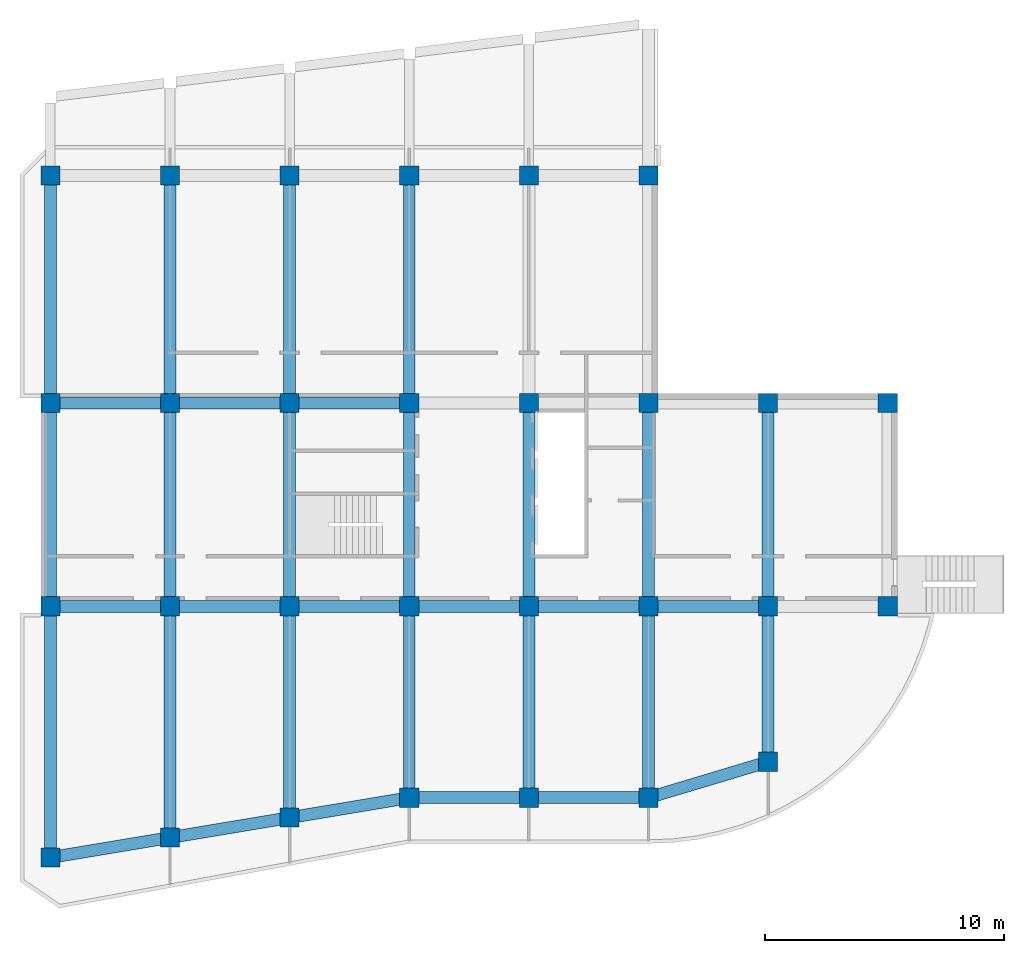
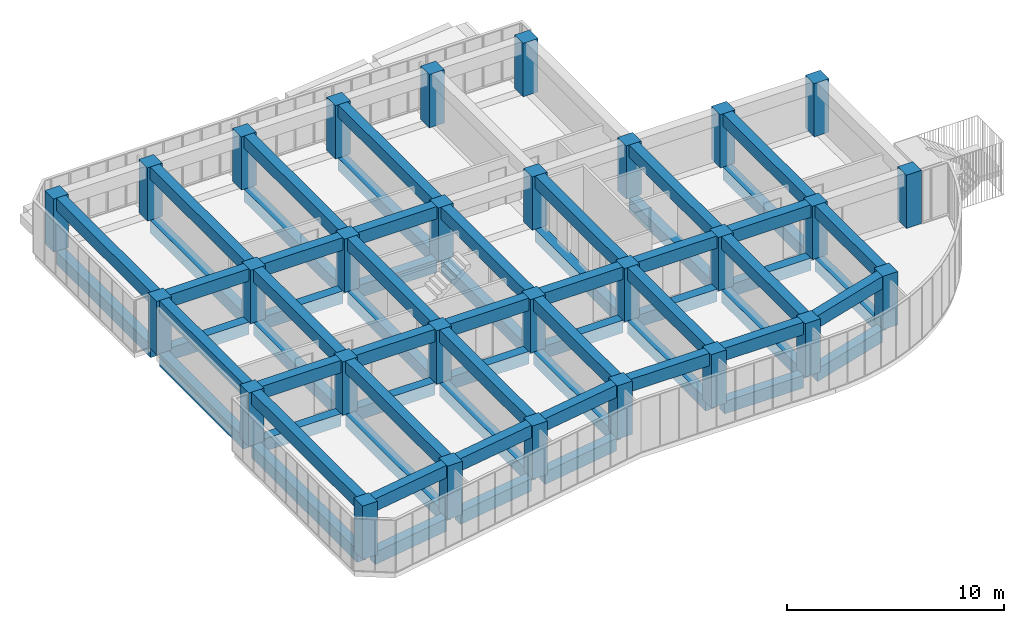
# One storey, part 3 of 6: 65 beams, 29 columns.
"""IFC2X3 building model written with IfcOpenShell, lengths in millimetres."""

from ifc_helpers import new_model, entity, si_unit, converted_unit, derived_unit, money_unit, direction, frame, origin_with_axes, place, context, subcontext, project, spatial, faceted_brep, material, type_object, element, save


model = new_model("IFC2X3")

# Units and contexts
model_context = context("Model", 3, precision=0.01, world=origin_with_axes(), true_north=direction((0.0, 1.0)))
body_context = subcontext(model_context, "Body", "Model", "MODEL_VIEW")
ifc_project = project(units=[si_unit("LENGTHUNIT", "METRE", prefix="MILLI"), si_unit("AREAUNIT", "SQUARE_METRE"), si_unit("VOLUMEUNIT", "CUBIC_METRE"), converted_unit("PLANEANGLEUNIT", "DEGREE", entity("IfcPlaneAngleMeasure", 0.0174532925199), si_unit("PLANEANGLEUNIT", "RADIAN"), dimensions=[0, 0, 0, 0, 0, 0, 0]), si_unit("SOLIDANGLEUNIT", "STERADIAN"), money_unit("JPY"), converted_unit("TIMEUNIT", "Year", entity("IfcTimeMeasure", 31556926.0), si_unit("TIMEUNIT", "SECOND"), dimensions=[0, 0, 1, 0, 0, 0, 0]), si_unit("MASSUNIT", "GRAM", prefix="KILO"), si_unit("THERMODYNAMICTEMPERATUREUNIT", "DEGREE_CELSIUS"), si_unit("LUMINOUSINTENSITYUNIT", "LUMEN"), si_unit("ENERGYUNIT", "JOULE", prefix="MEGA"), derived_unit("THERMALCONDUCTANCEUNIT", [(si_unit("POWERUNIT", "WATT"), 1), (si_unit("LENGTHUNIT", "METRE"), -1), (si_unit("THERMODYNAMICTEMPERATUREUNIT", "KELVIN"), -1)]), derived_unit("SPECIFICHEATCAPACITYUNIT", [(si_unit("ENERGYUNIT", "JOULE"), 1), (si_unit("MASSUNIT", "GRAM", prefix="KILO"), -1), (si_unit("THERMODYNAMICTEMPERATUREUNIT", "KELVIN"), -1)]), derived_unit("MASSDENSITYUNIT", [(si_unit("MASSUNIT", "GRAM", prefix="KILO"), 1), (si_unit("VOLUMEUNIT", "CUBIC_METRE"), -1)])], contexts=[model_context])

# Site, building, storey
site_placement = place(None, origin_with_axes())
site = spatial("IfcSite", under=ifc_project, at=site_placement, Name="サイト", CompositionType="ELEMENT")
building_placement = place(site_placement, origin_with_axes())
building = spatial("IfcBuilding", under=site, at=building_placement, Name="建築", CompositionType="ELEMENT")
storey_placement = place(building_placement, frame((0.0, 0.0, 6000.0), z_axis=(0.0, 0.0, 1.0), x_axis=(1.0, 0.0, 0.0)))
storey = spatial("IfcBuildingStorey", under=building, at=storey_placement, Name="3FL", CompositionType="ELEMENT", Elevation=6000.0)

# Columns
ifc_material = material(Name="コンクリート")
column_type = type_object("IfcColumnType", Name="コンクリート 800 x 800", PredefinedType="NOTDEFINED")
for number, where, z_axis, x_axis, name in (
    (1, (0.0, 0.0, 0.0), (0.0, 0.0, 1.0), (1.0, 0.0, 0.0), "C1"),
    (2, (5000.0, 0.0, 0.0), (0.0, 0.0, 1.0), (1.0, 0.0, 0.0), "C1"),
    (3, (10000.0, 0.0, 0.0), (0.0, 0.0, 1.0), (1.0, 0.0, 0.0), "C1"),
    (4, (15000.0, 0.0, 0.0), (0.0, 0.0, 1.0), (1.0, 0.0, 0.0), "C1"),
    (5, (20000.0, 0.0, 0.0), (0.0, 0.0, 1.0), (1.0, 0.0, 0.0), "C1"),
    (6, (25000.0, 0.0, 0.0), (0.0, 0.0, 1.0), (1.0, 0.0, 0.0), "C1"),
    (7, (30000.0, 0.0, 0.0), (0.0, 0.0, 1.0), (1.0, 0.0, 0.0), "C1"),
    (8, (35000.0, 0.0, 0.0), (0.0, 0.0, 1.0), (1.0, 0.0, 0.0), "C1"),
    (9, (35000.0, 8500.0, 0.0), (0.0, 0.0, 1.0), (1.0, 0.0, 0.0), "C1"),
    (10, (30000.0, 8500.0, 0.0), (0.0, 0.0, 1.0), (1.0, 0.0, 0.0), "C1"),
    (11, (25000.0, 8500.0, 0.0), (0.0, 0.0, 1.0), (1.0, 0.0, 0.0), "C1"),
    (12, (20000.0, 8500.0, 0.0), (0.0, 0.0, 1.0), (1.0, 0.0, 0.0), "C1"),
    (13, (15000.0, 8500.0, 0.0), (0.0, 0.0, 1.0), (1.0, 0.0, 0.0), "C1"),
    (14, (10000.0, 8500.0, 0.0), (0.0, 0.0, 1.0), (1.0, 0.0, 0.0), "C1"),
    (15, (5000.0, 8500.0, 0.0), (0.0, 0.0, 1.0), (1.0, 0.0, 0.0), "C1"),
    (16, (0.0, 8500.0, 0.0), (0.0, 0.0, 1.0), (1.0, 0.0, 0.0), "C1"),
    (17, (0.0, -10500.0, 0.0), (0.0, 0.0, 1.0), (1.0, 0.0, 0.0), "C1"),
    (18, (5000.0, -9666.66666667, 0.0), (0.0, 0.0, 1.0), (1.0, 0.0, 0.0), "C1"),
    (19, (10000.0, -8833.33333333, 0.0), (0.0, 0.0, 1.0), (1.0, 0.0, 0.0), "C1"),
    (20, (15000.0, -8000.0, 0.0), (0.0, 0.0, 1.0), (1.0, 0.0, 0.0), "C1"),
    (21, (20000.0, -8000.0, 0.0), (0.0, 0.0, 1.0), (1.0, 0.0, 0.0), "C1"),
    (22, (25000.0, -8000.0, 0.0), (0.0, 0.0, 1.0), (1.0, 0.0, 0.0), "C1"),
    (23, (25000.0, 18000.0, 0.0), (0.0, 0.0, 1.0), (1.0, 0.0, 0.0), "C1"),
    (24, (20000.0, 18000.0, 0.0), (0.0, 0.0, 1.0), (1.0, 0.0, 0.0), "C1"),
    (25, (15000.0, 18000.0, 0.0), (0.0, 0.0, 1.0), (1.0, 0.0, 0.0), "C1"),
    (26, (10000.0, 18000.0, 0.0), (0.0, 0.0, 1.0), (1.0, 0.0, 0.0), "C1"),
    (27, (5000.0, 18000.0, 0.0), (0.0, 0.0, 1.0), (1.0, 0.0, 0.0), "C1"),
    (28, (0.0, 18000.0, 0.0), (0.0, 0.0, 1.0), (1.0, 0.0, 0.0), "C1"),
    (29, (30000.0, -6500.0, 0.0), (0.0, 0.0, 1.0), (1.0, 0.0, 0.0), "C1"),
):
    element("IfcColumn", number, at=place(storey_placement, frame(where, z_axis=z_axis, x_axis=x_axis)), inside=storey, type_object=column_type, material=ifc_material, Name=name, context=body_context, shape_type="Brep", body=[
        faceted_brep([(-400.0, -400.0, 3000.0), (-400.0, -400.0, 0.0), (400.0, -400.0, 0.0), (400.0, -400.0, 3000.0), (-400.0, 400.0, 3000.0), (-400.0, 400.0, 0.0), (400.0, 400.0, 0.0), (400.0, 400.0, 3000.0)], [[[0, 1, 2, 3]], [[4, 5, 1, 0]], [[2, 1, 5, 6]], [[3, 2, 6, 7]], [[4, 0, 3, 7]], [[7, 6, 5, 4]]]),
    ])

# Beams
beam_type = type_object("IfcBeamType", Name="コンクリート 500 x 700", PredefinedType="NOTDEFINED")
beam_1_placement = place(storey_placement, frame((25000.0, 0.0, 3000.0), z_axis=(0.0, 0.0, 1.0), x_axis=(-1.0, 0.0, 0.0)))
element("IfcBeam", 30, at=beam_1_placement, inside=storey, type_object=beam_type, material=ifc_material, Name="G1", context=body_context, shape_type="Brep", body=[
    faceted_brep([(-250.0, 7600.0, -700.0), (-250.0, 400.0, -700.0), (-250.0, 400.0, 0.0), (-250.0, 7600.0, 0.0), (250.0, 7600.0, -700.0), (250.0, 400.0, -700.0), (250.0, 400.0, 0.0), (250.0, 7600.0, 0.0)], [[[0, 1, 2, 3]], [[4, 5, 1, 0]], [[5, 6, 2, 1]], [[3, 2, 6, 7]], [[4, 0, 3, 7]], [[7, 6, 5, 4]]]),
])
beam_2_placement = place(storey_placement, frame((0.0, 18000.0, 3000.0), z_axis=(0.0, 0.0, 1.0), x_axis=(-1.0, 0.0, 0.0)))
element("IfcBeam", 31, at=beam_2_placement, inside=storey, type_object=beam_type, material=ifc_material, Name="G1", context=body_context, shape_type="Brep", body=[
    faceted_brep([(-250.0, 9100.0, -700.0), (-250.0, 400.0, -700.0), (-250.0, 400.0, 0.0), (-250.0, 9100.0, 0.0), (250.0, 9100.0, -700.0), (250.0, 400.0, -700.0), (250.0, 400.0, 0.0), (250.0, 9100.0, 0.0)], [[[0, 1, 2, 3]], [[4, 5, 1, 0]], [[5, 6, 2, 1]], [[3, 2, 6, 7]], [[4, 0, 3, 7]], [[7, 6, 5, 4]]]),
])
beam_3_placement = place(storey_placement, frame((30000.0, 8500.0, 3000.0), z_axis=(0.0, 0.0, 1.0), x_axis=(-1.0, 0.0, 0.0)))
element("IfcBeam", 32, at=beam_3_placement, inside=storey, type_object=beam_type, material=ifc_material, Name="G1", context=body_context, shape_type="Brep", body=[
    faceted_brep([(250.0, 400.0, 0.0), (250.0, 8100.0, 0.0), (-250.0, 8100.0, 0.0), (-250.0, 400.0, 0.0), (250.0, 400.0, -700.0), (250.0, 8100.0, -700.0), (-250.0, 8100.0, -700.0), (-250.0, 400.0, -700.0)], [[[0, 1, 2, 3]], [[4, 5, 1, 0]], [[5, 6, 2, 1]], [[3, 2, 6, 7]], [[4, 0, 3, 7]], [[7, 6, 5, 4]]]),
])
beam_4_placement = place(storey_placement, frame((0.0, 0.0, 3000.0), z_axis=(0.0, 0.0, 1.0), x_axis=(1.0, 0.0, 0.0)))
element("IfcBeam", 33, at=beam_4_placement, inside=storey, type_object=beam_type, material=ifc_material, Name="G1", context=body_context, shape_type="Brep", body=[
    faceted_brep([(-250.0, 8100.0, 0.0), (-250.0, 400.0, 0.0), (250.0, 400.0, 0.0), (250.0, 8100.0, 0.0), (-250.0, 8100.0, -700.0), (-250.0, 400.0, -700.0), (250.0, 400.0, -700.0), (250.0, 8100.0, -700.0)], [[[0, 1, 2, 3]], [[4, 5, 1, 0]], [[5, 6, 2, 1]], [[3, 2, 6, 7]], [[4, 0, 3, 7]], [[7, 6, 5, 4]]]),
])
beam_5_placement = place(storey_placement, frame((0.0, -10500.0, 3000.0), z_axis=(0.0, 0.0, 1.0), x_axis=(1.0, 0.0, 0.0)))
element("IfcBeam", 34, at=beam_5_placement, inside=storey, type_object=beam_type, material=ifc_material, Name="G1", context=body_context, shape_type="Brep", body=[
    faceted_brep([(250.0, 400.0, -700.0), (250.0, 10100.0, -700.0), (250.0, 10100.0, 0.0), (250.0, 400.0, 0.0), (-250.0, 400.0, -700.0), (-250.0, 10100.0, -700.0), (-250.0, 10100.0, 0.0), (-250.0, 400.0, 0.0)], [[[0, 1, 2, 3]], [[4, 5, 1, 0]], [[5, 6, 2, 1]], [[3, 2, 6, 7]], [[4, 0, 3, 7]], [[7, 6, 5, 4]]]),
])
for number, where, z_axis, x_axis, name in (
    (35, (15000.0, 18000.0, 3000.0), (0.0, 0.0, 1.0), (-1.0, 0.0, 0.0), "G1"),
    (36, (10000.0, 18000.0, 3000.0), (0.0, 0.0, 1.0), (-1.0, 0.0, 0.0), "G1"),
):
    element("IfcBeam", number, at=place(storey_placement, frame(where, z_axis=z_axis, x_axis=x_axis)), inside=storey, type_object=beam_type, material=ifc_material, Name=name, context=body_context, shape_type="Brep", body=[
        faceted_brep([(250.0, 400.0, 0.0), (250.0, 9100.0, 0.0), (-250.0, 9100.0, 0.0), (-250.0, 400.0, 0.0), (250.0, 400.0, -700.0), (250.0, 9100.0, -700.0), (-250.0, 9100.0, -700.0), (-250.0, 400.0, -700.0)], [[[0, 1, 2, 3]], [[4, 5, 1, 0]], [[5, 6, 2, 1]], [[3, 2, 6, 7]], [[4, 0, 3, 7]], [[7, 6, 5, 4]]]),
    ])
beam_6_placement = place(storey_placement, frame((5000.0, 8500.0, 3000.0), z_axis=(0.0, 0.0, 1.0), x_axis=(1.0, 0.0, 0.0)))
element("IfcBeam", 37, at=beam_6_placement, inside=storey, type_object=beam_type, material=ifc_material, Name="G1", context=body_context, shape_type="Brep", body=[
    faceted_brep([(-250.0, 9100.0, 0.0), (-250.0, 400.0, 0.0), (250.0, 400.0, 0.0), (250.0, 9100.0, 0.0), (-250.0, 9100.0, -700.0), (-250.0, 400.0, -700.0), (250.0, 400.0, -700.0), (250.0, 9100.0, -700.0)], [[[0, 1, 2, 3]], [[4, 5, 1, 0]], [[5, 6, 2, 1]], [[3, 2, 6, 7]], [[4, 0, 3, 7]], [[7, 6, 5, 4]]]),
])
beam_7_placement = place(storey_placement, frame((10000.0, 0.0, 3000.0), z_axis=(0.0, 0.0, 1.0), x_axis=(-1.0, 0.0, 0.0)))
element("IfcBeam", 38, at=beam_7_placement, inside=storey, type_object=beam_type, material=ifc_material, Name="G1", context=body_context, shape_type="Brep", body=[
    faceted_brep([(-250.000000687, 8433.33333333, -700.0), (-250.000000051, 400.0, -700.0), (-250.000000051, 400.0, 0.0), (-250.000000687, 8433.33333333, 0.0), (249.999999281, 8433.33333333, -700.0), (249.999999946, 400.0, -700.0), (249.999999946, 400.0, 0.0), (249.999999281, 8433.33333333, 0.0)], [[[0, 1, 2, 3]], [[4, 5, 1, 0]], [[5, 6, 2, 1]], [[3, 2, 6, 7]], [[4, 0, 3, 7]], [[7, 6, 5, 4]]]),
])
for number, where, z_axis, x_axis, name in (
    (39, (15000.0, 8500.0, 3000.0), (0.0, 0.0, 1.0), (-1.0, 0.0, 0.0), "G1"),
    (40, (10000.0, 8500.0, 3000.0), (0.0, 0.0, 1.0), (-1.0, 0.0, 0.0), "G1"),
    (41, (5000.0, 8500.0, 3000.0), (0.0, 0.0, 1.0), (-1.0, 0.0, 0.0), "G1"),
    (42, (25000.0, 8500.0, 3000.0), (0.0, 0.0, 1.0), (-1.0, 0.0, 0.0), "G1"),
):
    element("IfcBeam", number, at=place(storey_placement, frame(where, z_axis=z_axis, x_axis=x_axis)), inside=storey, type_object=beam_type, material=ifc_material, Name=name, context=body_context, shape_type="Brep", body=[
        faceted_brep([(250.0, 400.0, 0.0), (250.0, 8100.0, 0.0), (-250.0, 8100.0, 0.0), (-250.0, 400.0, 0.0), (250.0, 400.0, -700.0), (250.0, 8100.0, -700.0), (-250.0, 8100.0, -700.0), (-250.0, 400.0, -700.0)], [[[0, 1, 2, 3]], [[4, 5, 1, 0]], [[5, 6, 2, 1]], [[3, 2, 6, 7]], [[4, 0, 3, 7]], [[7, 6, 5, 4]]]),
    ])
beam_8_placement = place(storey_placement, frame((25000.0, -8000.0, 3000.0), z_axis=(0.0, 0.0, 1.0), x_axis=(0.0, 1.0, 0.0)))
element("IfcBeam", 43, at=beam_8_placement, inside=storey, type_object=beam_type, material=ifc_material, Name="G1", context=body_context, shape_type="Brep", body=[
    faceted_brep([(250.0, 400.0, -700.0), (250.0, 4600.0, -700.0), (250.0, 4600.0, 0.0), (250.0, 400.0, 0.0), (-250.000004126, 400.0, -700.0), (-250.000000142, 4600.0, -700.0), (-250.000000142, 4600.0, 0.0), (-250.000004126, 400.0, 0.0)], [[[0, 1, 2, 3]], [[4, 5, 1, 0]], [[5, 6, 2, 1]], [[3, 2, 6, 7]], [[4, 0, 3, 7]], [[7, 6, 5, 4]]]),
])
beam_9_placement = place(storey_placement, frame((15000.0, 0.0, 3000.0), z_axis=(0.0, 0.0, 1.0), x_axis=(-1.0, 0.0, 0.0)))
element("IfcBeam", 44, at=beam_9_placement, inside=storey, type_object=beam_type, material=ifc_material, Name="G1", context=body_context, shape_type="Brep", body=[
    faceted_brep([(-250.0, 7600.0, -700.0), (-250.0, 400.0, -700.0), (-250.0, 400.0, 0.0), (-250.0, 7600.0, 0.0), (250.0, 7600.0, -700.0), (250.0, 400.0, -700.0), (250.0, 400.0, 0.0), (250.0, 7600.0, 0.0)], [[[0, 1, 2, 3]], [[4, 5, 1, 0]], [[5, 6, 2, 1]], [[3, 2, 6, 7]], [[4, 0, 3, 7]], [[7, 6, 5, 4]]]),
])
beam_10_placement = place(storey_placement, frame((5000.0, -9666.66666667, 3000.0), z_axis=(0.0, 0.0, 1.0), x_axis=(-0.164398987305, 0.986393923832, 0.0)))
element("IfcBeam", 45, at=beam_10_placement, inside=storey, type_object=beam_type, material=ifc_material, Name="G1", context=body_context, shape_type="Brep", body=[
    faceted_brep([(249.999995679, 363.850836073, -700.0), (249.999999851, 4621.78460659, -700.0), (249.999999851, 4621.78460659, 0.0), (249.999995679, 363.850836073, 0.0), (-250.000004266, 447.184169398, -700.0), (-250.000000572, 4705.11793999, -700.0), (-250.000000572, 4705.11793999, 0.0), (-250.000004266, 447.184169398, 0.0)], [[[0, 1, 2, 3]], [[4, 5, 1, 0]], [[5, 6, 2, 1]], [[3, 2, 6, 7]], [[4, 0, 3, 7]], [[7, 6, 5, 4]]]),
])
beam_11_placement = place(storey_placement, frame((20000.0, 8500.0, 3000.0), z_axis=(0.0, 0.0, 1.0), x_axis=(-1.0, 0.0, 0.0)))
element("IfcBeam", 46, at=beam_11_placement, inside=storey, type_object=beam_type, material=ifc_material, Name="G1", context=body_context, shape_type="Brep", body=[
    faceted_brep([(250.0, 400.0, 0.0), (250.0, 8100.0, 0.0), (-250.0, 8100.0, 0.0), (-250.0, 400.0, 0.0), (250.0, 400.0, -700.0), (250.0, 8100.0, -700.0), (-250.0, 8100.0, -700.0), (-250.0, 400.0, -700.0)], [[[0, 1, 2, 3]], [[4, 5, 1, 0]], [[5, 6, 2, 1]], [[3, 2, 6, 7]], [[4, 0, 3, 7]], [[7, 6, 5, 4]]]),
])
beam_12_placement = place(storey_placement, frame((5000.0, 0.0, 3000.0), z_axis=(0.0, 0.0, 1.0), x_axis=(-1.0, 0.0, 0.0)))
element("IfcBeam", 47, at=beam_12_placement, inside=storey, type_object=beam_type, material=ifc_material, Name="G1", context=body_context, shape_type="Brep", body=[
    faceted_brep([(-250.000000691, 9266.66666667, -700.0), (-250.000000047, 400.0, -700.0), (-250.000000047, 400.0, 0.0), (-250.000000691, 9266.66666667, 0.0), (249.999999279, 9266.66666667, -700.0), (249.999999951, 400.0, -700.0), (249.999999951, 400.0, 0.0), (249.999999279, 9266.66666667, 0.0)], [[[0, 1, 2, 3]], [[4, 5, 1, 0]], [[5, 6, 2, 1]], [[3, 2, 6, 7]], [[4, 0, 3, 7]], [[7, 6, 5, 4]]]),
])
beam_13_placement = place(storey_placement, frame((10000.0, -8833.33333333, 3000.0), z_axis=(0.0, 0.0, 1.0), x_axis=(-0.164398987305, 0.986393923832, 0.0)))
element("IfcBeam", 48, at=beam_13_placement, inside=storey, type_object=beam_type, material=ifc_material, Name="G1", context=body_context, shape_type="Brep", body=[
    faceted_brep([(249.99999567, 363.850836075, -700.0), (249.999999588, 4621.78460663, -700.0), (249.999999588, 4621.78460663, 0.0), (249.99999567, 363.850836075, 0.0), (-250.00000447, 447.184169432, -700.0), (-250.00000447, 4705.11794064, -700.0), (-250.00000447, 4705.11794064, 0.0), (-250.00000447, 447.184169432, 0.0)], [[[0, 1, 2, 3]], [[4, 5, 1, 0]], [[5, 6, 2, 1]], [[3, 2, 6, 7]], [[4, 0, 3, 7]], [[7, 6, 5, 4]]]),
])
beam_14_placement = place(storey_placement, frame((20000.0, -8000.0, 3000.0), z_axis=(0.0, 0.0, 1.0), x_axis=(1.0, 0.0, 0.0)))
element("IfcBeam", 49, at=beam_14_placement, inside=storey, type_object=beam_type, material=ifc_material, Name="G1", context=body_context, shape_type="Brep", body=[
    faceted_brep([(250.0, 400.0, -700.0), (250.0, 7600.0, -700.0), (250.0, 7600.0, 0.0), (250.0, 400.0, 0.0), (-250.0, 400.0, -700.0), (-250.0, 7600.0, -700.0), (-250.0, 7600.0, 0.0), (-250.0, 400.0, 0.0)], [[[0, 1, 2, 3]], [[4, 5, 1, 0]], [[5, 6, 2, 1]], [[3, 2, 6, 7]], [[4, 0, 3, 7]], [[7, 6, 5, 4]]]),
])
beam_15_placement = place(storey_placement, frame((15000.0, -8000.0, 3000.0), z_axis=(0.0, 0.0, 1.0), x_axis=(-0.164398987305, 0.986393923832, 0.0)))
element("IfcBeam", 50, at=beam_15_placement, inside=storey, type_object=beam_type, material=ifc_material, Name="G1", context=body_context, shape_type="Brep", body=[
    faceted_brep([(250.0, 363.850835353, -700.0), (250.0, 4621.78460656, -700.0), (250.0, 4621.78460656, 0.0), (250.0, 363.850835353, 0.0), (-250.00000447, 447.184169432, -700.0), (-250.00000447, 4705.11794064, -700.0), (-250.00000447, 4705.11794064, 0.0), (-250.00000447, 447.184169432, 0.0)], [[[0, 1, 2, 3]], [[4, 5, 1, 0]], [[5, 6, 2, 1]], [[3, 2, 6, 7]], [[4, 0, 3, 7]], [[7, 6, 5, 4]]]),
])
for number, where, z_axis, x_axis, name in (
    (51, (0.0, 0.0, 0.0), (0.0, 0.0, 1.0), (0.0, -1.0, 0.0), "G1"),
    (52, (5000.0, 0.0, 0.0), (0.0, 0.0, 1.0), (0.0, -1.0, 0.0), "G1"),
    (53, (10000.0, 0.0, 0.0), (0.0, 0.0, 1.0), (0.0, -1.0, 0.0), "G1"),
    (54, (15000.0, 0.0, 0.0), (0.0, 0.0, 1.0), (0.0, -1.0, 0.0), "G1"),
    (55, (20000.0, 0.0, 0.0), (0.0, 0.0, 1.0), (0.0, -1.0, 0.0), "G1"),
    (56, (25000.0, 0.0, 0.0), (0.0, 0.0, 1.0), (0.0, -1.0, 0.0), "G1"),
):
    element("IfcBeam", number, at=place(storey_placement, frame(where, z_axis=z_axis, x_axis=x_axis)), inside=storey, type_object=beam_type, material=ifc_material, Name=name, context=body_context, shape_type="Brep", body=[
        faceted_brep([(-250.0, 4600.0, -700.0), (-250.0, 400.0, -700.0), (-250.0, 400.0, 0.0), (-250.0, 4600.0, 0.0), (250.0, 4600.0, -700.0), (250.0, 400.0, -700.0), (250.0, 400.0, 0.0), (250.0, 4600.0, 0.0)], [[[0, 1, 2, 3]], [[4, 5, 1, 0]], [[5, 6, 2, 1]], [[3, 2, 6, 7]], [[4, 0, 3, 7]], [[7, 6, 5, 4]]]),
    ])
for number, where, z_axis, x_axis, name in (
    (57, (0.0, 8500.0, 0.0), (0.0, 0.0, 1.0), (0.0, -1.0, 0.0), "G1"),
    (58, (5000.0, 8500.0, 0.0), (0.0, 0.0, 1.0), (0.0, -1.0, 0.0), "G1"),
    (59, (10000.0, 8500.0, 0.0), (0.0, 0.0, 1.0), (0.0, -1.0, 0.0), "G1"),
):
    element("IfcBeam", number, at=place(storey_placement, frame(where, z_axis=z_axis, x_axis=x_axis)), inside=storey, type_object=beam_type, material=ifc_material, Name=name, context=body_context, shape_type="Brep", body=[
        faceted_brep([(250.0, 400.0, 0.0), (250.0, 4600.0, 0.0), (-250.0, 4600.0, 0.0), (-250.0, 400.0, 0.0), (250.0, 400.0, -700.0), (250.0, 4600.0, -700.0), (-250.0, 4600.0, -700.0), (-250.0, 400.0, -700.0)], [[[0, 1, 2, 3]], [[4, 5, 1, 0]], [[5, 6, 2, 1]], [[3, 2, 6, 7]], [[4, 0, 3, 7]], [[7, 6, 5, 4]]]),
    ])
beam_16_placement = place(storey_placement, origin_with_axes())
element("IfcBeam", 60, at=beam_16_placement, inside=storey, type_object=beam_type, material=ifc_material, Name="G1", context=body_context, shape_type="Brep", body=[
    faceted_brep([(-250.0, 8100.0, 0.0), (-250.0, 400.0, 0.0), (250.0, 400.0, 0.0), (250.0, 8100.0, 0.0), (-250.0, 8100.0, -700.0), (-250.0, 400.0, -700.0), (250.0, 400.0, -700.0), (250.0, 8100.0, -700.0)], [[[0, 1, 2, 3]], [[4, 5, 1, 0]], [[5, 6, 2, 1]], [[3, 2, 6, 7]], [[4, 0, 3, 7]], [[7, 6, 5, 4]]]),
])
beam_17_placement = place(storey_placement, frame((0.0, 18000.0, 0.0), z_axis=(0.0, 0.0, 1.0), x_axis=(-1.0, 0.0, 0.0)))
element("IfcBeam", 61, at=beam_17_placement, inside=storey, type_object=beam_type, material=ifc_material, Name="G1", context=body_context, shape_type="Brep", body=[
    faceted_brep([(250.0, 400.0, 0.0), (250.0, 9100.0, 0.0), (-250.0, 9100.0, 0.0), (-250.0, 400.0, 0.0), (250.0, 400.0, -700.0), (250.0, 9100.0, -700.0), (-250.0, 9100.0, -700.0), (-250.0, 400.0, -700.0)], [[[0, 1, 2, 3]], [[4, 5, 1, 0]], [[5, 6, 2, 1]], [[3, 2, 6, 7]], [[4, 0, 3, 7]], [[7, 6, 5, 4]]]),
])
for number, where, z_axis, x_axis, name in (
    (62, (5000.0, 8500.0, 0.0), (0.0, 0.0, 1.0), (-1.0, 0.0, 0.0), "G1"),
    (63, (10000.0, 8500.0, 0.0), (0.0, 0.0, 1.0), (-1.0, 0.0, 0.0), "G1"),
    (64, (15000.0, 8500.0, 0.0), (0.0, 0.0, 1.0), (-1.0, 0.0, 0.0), "G1"),
    (65, (20000.0, 8500.0, 0.0), (0.0, 0.0, 1.0), (-1.0, 0.0, 0.0), "G1"),
    (66, (25000.0, 8500.0, 0.0), (0.0, 0.0, 1.0), (-1.0, 0.0, 0.0), "G1"),
    (67, (30000.0, 8500.0, 0.0), (0.0, 0.0, 1.0), (-1.0, 0.0, 0.0), "G1"),
):
    element("IfcBeam", number, at=place(storey_placement, frame(where, z_axis=z_axis, x_axis=x_axis)), inside=storey, type_object=beam_type, material=ifc_material, Name=name, context=body_context, shape_type="Brep", body=[
        faceted_brep([(250.0, 400.0, 0.0), (250.0, 8100.0, 0.0), (-250.0, 8100.0, 0.0), (-250.0, 400.0, 0.0), (250.0, 400.0, -700.0), (250.0, 8100.0, -700.0), (-250.0, 8100.0, -700.0), (-250.0, 400.0, -700.0)], [[[0, 1, 2, 3]], [[4, 5, 1, 0]], [[5, 6, 2, 1]], [[3, 2, 6, 7]], [[4, 0, 3, 7]], [[7, 6, 5, 4]]]),
    ])
beam_18_placement = place(storey_placement, frame((25000.0, 0.0, 0.0), z_axis=(0.0, 0.0, 1.0), x_axis=(-1.0, 0.0, 0.0)))
element("IfcBeam", 68, at=beam_18_placement, inside=storey, type_object=beam_type, material=ifc_material, Name="G1", context=body_context, shape_type="Brep", body=[
    faceted_brep([(-250.0, 7600.0, -700.0), (-250.0, 400.0, -700.0), (-250.0, 400.0, 0.0), (-250.0, 7600.0, 0.0), (250.0, 7600.0, -700.0), (250.0, 400.0, -700.0), (250.0, 400.0, 0.0), (250.0, 7600.0, 0.0)], [[[0, 1, 2, 3]], [[4, 5, 1, 0]], [[5, 6, 2, 1]], [[3, 2, 6, 7]], [[4, 0, 3, 7]], [[7, 6, 5, 4]]]),
])
beam_19_placement = place(storey_placement, frame((25000.0, -8000.0, 0.0), z_axis=(0.0, 0.0, 1.0), x_axis=(0.0, 1.0, 0.0)))
element("IfcBeam", 69, at=beam_19_placement, inside=storey, type_object=beam_type, material=ifc_material, Name="G1", context=body_context, shape_type="Brep", body=[
    faceted_brep([(250.000004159, 400.0, -700.0), (250.000000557, 4600.0, -700.0), (250.000000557, 4600.0, 0.0), (250.000004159, 400.0, 0.0), (-250.000004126, 400.0, -700.0), (-250.000000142, 4600.0, -700.0), (-250.000000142, 4600.0, 0.0), (-250.000004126, 400.0, 0.0)], [[[0, 1, 2, 3]], [[4, 5, 1, 0]], [[5, 6, 2, 1]], [[3, 2, 6, 7]], [[4, 0, 3, 7]], [[7, 6, 5, 4]]]),
])
beam_20_placement = place(storey_placement, frame((20000.0, -8000.0, 0.0), z_axis=(0.0, 0.0, 1.0), x_axis=(1.0, 0.0, 0.0)))
element("IfcBeam", 70, at=beam_20_placement, inside=storey, type_object=beam_type, material=ifc_material, Name="G1", context=body_context, shape_type="Brep", body=[
    faceted_brep([(250.0, 400.0, -700.0), (250.0, 7600.0, -700.0), (250.0, 7600.0, 0.0), (250.0, 400.0, 0.0), (-250.0, 400.0, -700.0), (-250.0, 7600.0, -700.0), (-250.0, 7600.0, 0.0), (-250.0, 400.0, 0.0)], [[[0, 1, 2, 3]], [[4, 5, 1, 0]], [[5, 6, 2, 1]], [[3, 2, 6, 7]], [[4, 0, 3, 7]], [[7, 6, 5, 4]]]),
])
beam_21_placement = place(storey_placement, frame((15000.0, 0.0, 0.0), z_axis=(0.0, 0.0, 1.0), x_axis=(-1.0, 0.0, 0.0)))
element("IfcBeam", 71, at=beam_21_placement, inside=storey, type_object=beam_type, material=ifc_material, Name="G1", context=body_context, shape_type="Brep", body=[
    faceted_brep([(-250.0, 7600.0, -700.0), (-250.0, 400.0, -700.0), (-250.0, 400.0, 0.0), (-250.0, 7600.0, 0.0), (250.000004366, 7600.0, -700.0), (250.000000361, 400.0, -700.0), (250.000000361, 400.0, 0.0), (250.000004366, 7600.0, 0.0)], [[[0, 1, 2, 3]], [[4, 5, 1, 0]], [[5, 6, 2, 1]], [[3, 2, 6, 7]], [[4, 0, 3, 7]], [[7, 6, 5, 4]]]),
])
beam_22_placement = place(storey_placement, frame((15000.0, -8000.0, 0.0), z_axis=(0.0, 0.0, 1.0), x_axis=(-0.164398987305, 0.986393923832, 0.0)))
element("IfcBeam", 72, at=beam_22_placement, inside=storey, type_object=beam_type, material=ifc_material, Name="G1", context=body_context, shape_type="Brep", body=[
    faceted_brep([(250.000000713, 363.850835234, -700.0), (250.000000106, 4621.78460654, -700.0), (250.000000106, 4621.78460654, 0.0), (250.000000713, 363.850835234, 0.0), (-250.000000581, 447.184168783, -700.0), (-250.000004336, 4705.11794062, -700.0), (-250.000004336, 4705.11794062, 0.0), (-250.000000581, 447.184168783, 0.0)], [[[0, 1, 2, 3]], [[4, 5, 1, 0]], [[5, 6, 2, 1]], [[3, 2, 6, 7]], [[4, 0, 3, 7]], [[7, 6, 5, 4]]]),
])
for number, where, z_axis, x_axis, name in (
    (73, (10000.0, -8833.33333333, 0.0), (0.0, 0.0, 1.0), (-0.164398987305, 0.986393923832, 0.0), "G1"),
    (74, (5000.0, -9666.66666667, 0.0), (0.0, 0.0, 1.0), (-0.164398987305, 0.986393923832, 0.0), "G1"),
):
    element("IfcBeam", number, at=place(storey_placement, frame(where, z_axis=z_axis, x_axis=x_axis)), inside=storey, type_object=beam_type, material=ifc_material, Name=name, context=body_context, shape_type="Brep", body=[
        faceted_brep([(249.999995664, 363.850836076, -700.0), (249.999999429, 4621.78460666, -700.0), (249.999999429, 4621.78460666, 0.0), (249.999995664, 363.850836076, 0.0), (-250.00000447, 447.184169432, -700.0), (-250.00000447, 4705.11794064, -700.0), (-250.00000447, 4705.11794064, 0.0), (-250.00000447, 447.184169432, 0.0)], [[[0, 1, 2, 3]], [[4, 5, 1, 0]], [[5, 6, 2, 1]], [[3, 2, 6, 7]], [[4, 0, 3, 7]], [[7, 6, 5, 4]]]),
    ])
beam_23_placement = place(storey_placement, frame((0.0, -10500.0, 0.0), z_axis=(0.0, 0.0, 1.0), x_axis=(1.0, 0.0, 0.0)))
element("IfcBeam", 75, at=beam_23_placement, inside=storey, type_object=beam_type, material=ifc_material, Name="G1", context=body_context, shape_type="Brep", body=[
    faceted_brep([(250.0, 400.0, -700.0), (250.0, 10100.0, -700.0), (250.0, 10100.0, 0.0), (250.0, 400.0, 0.0), (-249.999999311, 400.0, -700.0), (-249.999999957, 10100.0, -700.0), (-249.999999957, 10100.0, 0.0), (-249.999999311, 400.0, 0.0)], [[[0, 1, 2, 3]], [[4, 5, 1, 0]], [[5, 6, 2, 1]], [[3, 2, 6, 7]], [[4, 0, 3, 7]], [[7, 6, 5, 4]]]),
])
beam_24_placement = place(storey_placement, frame((5000.0, 0.0, 0.0), z_axis=(0.0, 0.0, 1.0), x_axis=(-1.0, 0.0, 0.0)))
element("IfcBeam", 76, at=beam_24_placement, inside=storey, type_object=beam_type, material=ifc_material, Name="G1", context=body_context, shape_type="Brep", body=[
    faceted_brep([(-250.000000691, 9266.66666667, -700.0), (-250.000000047, 400.0, -700.0), (-250.000000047, 400.0, 0.0), (-250.000000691, 9266.66666667, 0.0), (249.999999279, 9266.66666667, -700.0), (249.999999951, 400.0, -700.0), (249.999999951, 400.0, 0.0), (249.999999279, 9266.66666667, 0.0)], [[[0, 1, 2, 3]], [[4, 5, 1, 0]], [[5, 6, 2, 1]], [[3, 2, 6, 7]], [[4, 0, 3, 7]], [[7, 6, 5, 4]]]),
])
beam_25_placement = place(storey_placement, frame((10000.0, 0.0, 0.0), z_axis=(0.0, 0.0, 1.0), x_axis=(-1.0, 0.0, 0.0)))
element("IfcBeam", 77, at=beam_25_placement, inside=storey, type_object=beam_type, material=ifc_material, Name="G1", context=body_context, shape_type="Brep", body=[
    faceted_brep([(-250.000000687, 8433.33333333, -700.0), (-250.000000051, 400.0, -700.0), (-250.000000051, 400.0, 0.0), (-250.000000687, 8433.33333333, 0.0), (249.999999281, 8433.33333333, -700.0), (249.999999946, 400.0, -700.0), (249.999999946, 400.0, 0.0), (249.999999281, 8433.33333333, 0.0)], [[[0, 1, 2, 3]], [[4, 5, 1, 0]], [[5, 6, 2, 1]], [[3, 2, 6, 7]], [[4, 0, 3, 7]], [[7, 6, 5, 4]]]),
])
beam_26_placement = place(storey_placement, frame((5000.0, 8500.0, 0.0), z_axis=(0.0, 0.0, 1.0), x_axis=(1.0, 0.0, 0.0)))
element("IfcBeam", 78, at=beam_26_placement, inside=storey, type_object=beam_type, material=ifc_material, Name="G1", context=body_context, shape_type="Brep", body=[
    faceted_brep([(-250.0, 9100.0, 0.0), (-250.0, 400.0, 0.0), (250.0, 400.0, 0.0), (250.0, 9100.0, 0.0), (-250.0, 9100.0, -700.0), (-250.0, 400.0, -700.0), (250.0, 400.0, -700.0), (250.0, 9100.0, -700.0)], [[[0, 1, 2, 3]], [[4, 5, 1, 0]], [[5, 6, 2, 1]], [[3, 2, 6, 7]], [[4, 0, 3, 7]], [[7, 6, 5, 4]]]),
])
for number, where, z_axis, x_axis, name in (
    (79, (10000.0, 18000.0, 0.0), (0.0, 0.0, 1.0), (-1.0, 0.0, 0.0), "G1"),
    (80, (15000.0, 18000.0, 0.0), (0.0, 0.0, 1.0), (-1.0, 0.0, 0.0), "G1"),
):
    element("IfcBeam", number, at=place(storey_placement, frame(where, z_axis=z_axis, x_axis=x_axis)), inside=storey, type_object=beam_type, material=ifc_material, Name=name, context=body_context, shape_type="Brep", body=[
        faceted_brep([(250.0, 400.0, 0.0), (250.0, 9100.0, 0.0), (-250.0, 9100.0, 0.0), (-250.0, 400.0, 0.0), (250.0, 400.0, -700.0), (250.0, 9100.0, -700.0), (-250.0, 9100.0, -700.0), (-250.0, 400.0, -700.0)], [[[0, 1, 2, 3]], [[4, 5, 1, 0]], [[5, 6, 2, 1]], [[3, 2, 6, 7]], [[4, 0, 3, 7]], [[7, 6, 5, 4]]]),
    ])
for number, where, z_axis, x_axis, name in (
    (81, (0.0, 0.0, 3000.0), (0.0, 0.0, 1.0), (0.0, -1.0, 0.0), "G1"),
    (82, (5000.0, 0.0, 3000.0), (0.0, 0.0, 1.0), (0.0, -1.0, 0.0), "G1"),
    (83, (10000.0, 0.0, 3000.0), (0.0, 0.0, 1.0), (0.0, -1.0, 0.0), "G1"),
    (84, (15000.0, 0.0, 3000.0), (0.0, 0.0, 1.0), (0.0, -1.0, 0.0), "G1"),
    (85, (20000.0, 0.0, 3000.0), (0.0, 0.0, 1.0), (0.0, -1.0, 0.0), "G1"),
    (86, (25000.0, 0.0, 3000.0), (0.0, 0.0, 1.0), (0.0, -1.0, 0.0), "G1"),
):
    element("IfcBeam", number, at=place(storey_placement, frame(where, z_axis=z_axis, x_axis=x_axis)), inside=storey, type_object=beam_type, material=ifc_material, Name=name, context=body_context, shape_type="Brep", body=[
        faceted_brep([(-250.0, 4600.0, -700.0), (-250.0, 400.0, -700.0), (-250.0, 400.0, 0.0), (-250.0, 4600.0, 0.0), (250.0, 4600.0, -700.0), (250.0, 400.0, -700.0), (250.0, 400.0, 0.0), (250.0, 4600.0, 0.0)], [[[0, 1, 2, 3]], [[4, 5, 1, 0]], [[5, 6, 2, 1]], [[3, 2, 6, 7]], [[4, 0, 3, 7]], [[7, 6, 5, 4]]]),
    ])
for number, where, z_axis, x_axis, name in (
    (87, (0.0, 8500.0, 3000.0), (0.0, 0.0, 1.0), (0.0, -1.0, 0.0), "G1"),
    (88, (5000.0, 8500.0, 3000.0), (0.0, 0.0, 1.0), (0.0, -1.0, 0.0), "G1"),
    (89, (10000.0, 8500.0, 3000.0), (0.0, 0.0, 1.0), (0.0, -1.0, 0.0), "G1"),
):
    element("IfcBeam", number, at=place(storey_placement, frame(where, z_axis=z_axis, x_axis=x_axis)), inside=storey, type_object=beam_type, material=ifc_material, Name=name, context=body_context, shape_type="Brep", body=[
        faceted_brep([(250.0, 400.0, 0.0), (250.0, 4600.0, 0.0), (-250.0, 4600.0, 0.0), (-250.0, 400.0, 0.0), (250.0, 400.0, -700.0), (250.0, 4600.0, -700.0), (-250.0, 4600.0, -700.0), (-250.0, 400.0, -700.0)], [[[0, 1, 2, 3]], [[4, 5, 1, 0]], [[5, 6, 2, 1]], [[3, 2, 6, 7]], [[4, 0, 3, 7]], [[7, 6, 5, 4]]]),
    ])
beam_27_placement = place(storey_placement, frame((20000.0, -8000.0, 3000.0), z_axis=(0.0, 0.0, 1.0), x_axis=(0.0, 1.0, 0.0)))
element("IfcBeam", 90, at=beam_27_placement, inside=storey, type_object=beam_type, material=ifc_material, Name="G1", context=body_context, shape_type="Brep", body=[
    faceted_brep([(250.000000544, 400.0, -700.0), (250.000004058, 4600.0, -700.0), (250.000004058, 4600.0, 0.0), (250.000000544, 400.0, 0.0), (-250.000000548, 400.0, -700.0), (-250.00000409, 4600.0, -700.0), (-250.00000409, 4600.0, 0.0), (-250.000000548, 400.0, 0.0)], [[[0, 1, 2, 3]], [[4, 5, 1, 0]], [[5, 6, 2, 1]], [[3, 2, 6, 7]], [[4, 0, 3, 7]], [[7, 6, 5, 4]]]),
])
beam_28_placement = place(storey_placement, frame((30000.0, 0.0, 3000.0), z_axis=(0.0, 0.0, 1.0), x_axis=(-1.0, 0.0, 0.0)))
element("IfcBeam", 91, at=beam_28_placement, inside=storey, type_object=beam_type, material=ifc_material, Name="G1", context=body_context, shape_type="Brep", body=[
    faceted_brep([(-250.0, 6100.0, -700.0), (-250.0, 400.0, -700.0), (-250.0, 400.0, 0.0), (-250.0, 6100.0, 0.0), (250.0, 6100.0, -700.0), (250.0, 400.0, -700.0), (250.0, 400.0, 0.0), (250.0, 6100.0, 0.0)], [[[0, 1, 2, 3]], [[4, 5, 1, 0]], [[5, 6, 2, 1]], [[3, 2, 6, 7]], [[4, 0, 3, 7]], [[7, 6, 5, 4]]]),
])
beam_29_placement = place(storey_placement, frame((30000.0, -6500.0, 3000.0), z_axis=(0.0, 0.0, 1.0), x_axis=(-0.287347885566, 0.957826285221, 0.0)))
element("IfcBeam", 92, at=beam_29_placement, inside=storey, type_object=beam_type, material=ifc_material, Name="G2", context=body_context, shape_type="Brep", body=[
    faceted_brep([(250.000000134, 342.612260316, -700.0), (250.000003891, 4727.54099293, -700.0), (250.000003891, 4727.54099293, 0.0), (250.000000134, 342.612260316, 0.0), (-249.99999984, 492.612260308, -700.0), (-249.999998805, 4877.54099374, -700.0), (-249.999998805, 4877.54099374, 0.0), (-249.99999984, 492.612260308, 0.0)], [[[0, 1, 2, 3]], [[4, 5, 1, 0]], [[5, 6, 2, 1]], [[3, 2, 6, 7]], [[4, 0, 3, 7]], [[7, 6, 5, 4]]]),
])
beam_30_placement = place(storey_placement, frame((30000.0, 0.0, 0.0), z_axis=(0.0, 0.0, 1.0), x_axis=(-1.0, 0.0, 0.0)))
element("IfcBeam", 93, at=beam_30_placement, inside=storey, type_object=beam_type, material=ifc_material, Name="G1", context=body_context, shape_type="Brep", body=[
    faceted_brep([(-250.0, 6100.0, -700.0), (-250.0, 400.0, -700.0), (-250.0, 400.0, 0.0), (-250.0, 6100.0, 0.0), (250.0, 6100.0, -700.0), (250.0, 400.0, -700.0), (250.0, 400.0, 0.0), (250.0, 6100.0, 0.0)], [[[0, 1, 2, 3]], [[4, 5, 1, 0]], [[5, 6, 2, 1]], [[3, 2, 6, 7]], [[4, 0, 3, 7]], [[7, 6, 5, 4]]]),
])
beam_31_placement = place(storey_placement, frame((30000.0, -6500.0, 0.0), z_axis=(0.0, 0.0, 1.0), x_axis=(-0.287347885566, 0.957826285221, 0.0)))
element("IfcBeam", 94, at=beam_31_placement, inside=storey, type_object=beam_type, material=ifc_material, Name="G2", context=body_context, shape_type="Brep", body=[
    faceted_brep([(250.000000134, 342.612260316, -700.0), (250.000003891, 4727.54099293, -700.0), (250.000003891, 4727.54099293, 0.0), (250.000000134, 342.612260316, 0.0), (-249.99999984, 492.612260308, -700.0), (-249.999998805, 4877.54099374, -700.0), (-249.999998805, 4877.54099374, 0.0), (-249.99999984, 492.612260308, 0.0)], [[[0, 1, 2, 3]], [[4, 5, 1, 0]], [[5, 6, 2, 1]], [[3, 2, 6, 7]], [[4, 0, 3, 7]], [[7, 6, 5, 4]]]),
])

save(model, "model.ifc")
